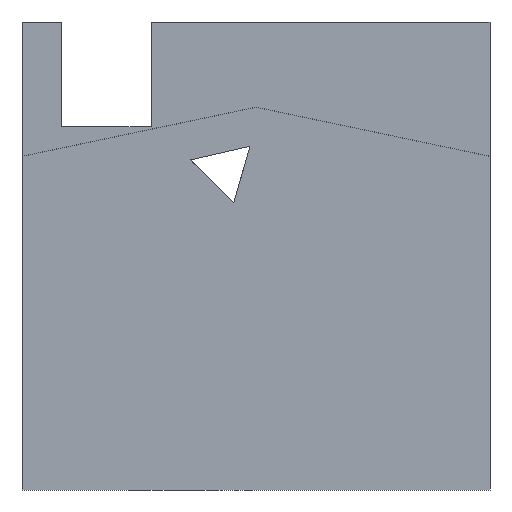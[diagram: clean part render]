
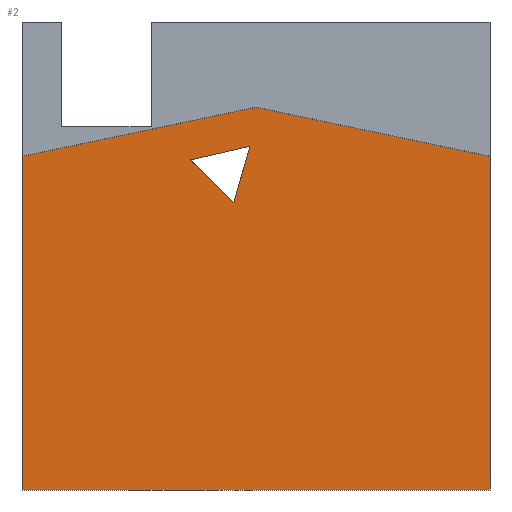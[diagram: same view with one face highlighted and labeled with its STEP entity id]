
A CAD part, front view. The second image highlights one B-rep face of the part: STEP entity #2.
In plain terms, the highlighted planar face has unit normal (0, -1, 0).
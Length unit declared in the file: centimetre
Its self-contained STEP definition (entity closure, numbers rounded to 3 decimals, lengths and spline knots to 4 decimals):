
#2 = ADVANCED_FACE ( 'NONE', ( #2408, #248 ), #633, .F. ) ;
#17 = ORIENTED_EDGE ( 'NONE', *, *, #1701, .T. ) ;
#35 = DIRECTION ( 'NONE',  ( 0.979, 0., 0.206 ) ) ;
#48 = ORIENTED_EDGE ( 'NONE', *, *, #1962, .F. ) ;
#62 = CARTESIAN_POINT ( 'NONE',  ( 487.1751, 0., 734.3258 ) ) ;
#66 = VERTEX_POINT ( 'NONE', #227 ) ;
#82 = VERTEX_POINT ( 'NONE', #2011 ) ;
#166 = VERTEX_POINT ( 'NONE', #2057 ) ;
#169 = EDGE_CURVE ( 'NONE', #2384, #66, #1072, .T. ) ;
#198 = CARTESIAN_POINT ( 'NONE',  ( 452.4896, 0., 613.6342 ) ) ;
#227 = CARTESIAN_POINT ( 'NONE',  ( 1000., 0., 712.9335 ) ) ;
#248 = FACE_OUTER_BOUND ( 'NONE', #1063, .T. ) ;
#266 = EDGE_CURVE ( 'NONE', #2045, #82, #322, .T. ) ;
#271 = ORIENTED_EDGE ( 'NONE', *, *, #169, .F. ) ;
#276 = VECTOR ( 'NONE', #1757, 100. ) ;
#322 = LINE ( 'NONE', #696, #457 ) ;
#360 = DIRECTION ( 'NONE',  ( 1., 0., 0. ) ) ;
#395 = DIRECTION ( 'NONE',  ( 0., 0., -1. ) ) ;
#430 = DIRECTION ( 'NONE',  ( 0.979, 0., -0.206 ) ) ;
#437 = CARTESIAN_POINT ( 'NONE',  ( 0., 0., 1000. ) ) ;
#457 = VECTOR ( 'NONE', #360, 100. ) ;
#474 = CARTESIAN_POINT ( 'NONE',  ( 1000., 0., 712.9335 ) ) ;
#510 = ORIENTED_EDGE ( 'NONE', *, *, #2488, .T. ) ;
#595 = CARTESIAN_POINT ( 'NONE',  ( 500., 0., 817.9415 ) ) ;
#633 = PLANE ( 'NONE',  #1164 ) ;
#696 = CARTESIAN_POINT ( 'NONE',  ( 0., 0., 0. ) ) ;
#768 = CARTESIAN_POINT ( 'NONE',  ( 0., 0., 0. ) ) ;
#774 = ORIENTED_EDGE ( 'NONE', *, *, #266, .T. ) ;
#803 = VECTOR ( 'NONE', #35, 100. ) ;
#829 = LINE ( 'NONE', #2208, #2562 ) ;
#843 = DIRECTION ( 'NONE',  ( 0.974, 0., 0.225 ) ) ;
#951 = DIRECTION ( 'NONE',  ( 0., 0., 1. ) ) ;
#1015 = CARTESIAN_POINT ( 'NONE',  ( 500., 0., 817.9415 ) ) ;
#1063 = EDGE_LOOP ( 'NONE', ( #1848, #271, #48, #1801, #774 ) ) ;
#1072 = LINE ( 'NONE', #474, #1696 ) ;
#1073 = VERTEX_POINT ( 'NONE', #2345 ) ;
#1098 = VERTEX_POINT ( 'NONE', #1457 ) ;
#1164 = AXIS2_PLACEMENT_3D ( 'NONE', #437, #1917, #951 ) ;
#1254 = EDGE_CURVE ( 'NONE', #1073, #2279, #1440, .T. ) ;
#1369 = LINE ( 'NONE', #595, #803 ) ;
#1440 = LINE ( 'NONE', #1877, #1722 ) ;
#1456 = EDGE_LOOP ( 'NONE', ( #510, #2190, #17 ) ) ;
#1457 = CARTESIAN_POINT ( 'NONE',  ( 0., 0., 712.9335 ) ) ;
#1480 = VECTOR ( 'NONE', #395, 100. ) ;
#1583 = DIRECTION ( 'NONE',  ( 0., 0., -1. ) ) ;
#1597 = LINE ( 'NONE', #2156, #276 ) ;
#1686 = DIRECTION ( 'NONE',  ( -0.276, 0., -0.961 ) ) ;
#1696 = VECTOR ( 'NONE', #430, 100. ) ;
#1701 = EDGE_CURVE ( 'NONE', #2279, #166, #1597, .T. ) ;
#1722 = VECTOR ( 'NONE', #1686, 100. ) ;
#1757 = DIRECTION ( 'NONE',  ( -0.707, 0., 0.707 ) ) ;
#1801 = ORIENTED_EDGE ( 'NONE', *, *, #2371, .T. ) ;
#1818 = LINE ( 'NONE', #62, #2003 ) ;
#1848 = ORIENTED_EDGE ( 'NONE', *, *, #2329, .F. ) ;
#1877 = CARTESIAN_POINT ( 'NONE',  ( 452.4896, 0., 613.6342 ) ) ;
#1917 = DIRECTION ( 'NONE',  ( 0., 1., 0. ) ) ;
#1962 = EDGE_CURVE ( 'NONE', #1098, #2384, #1369, .T. ) ;
#2003 = VECTOR ( 'NONE', #843, 100. ) ;
#2011 = CARTESIAN_POINT ( 'NONE',  ( 1000., 0., 0. ) ) ;
#2045 = VERTEX_POINT ( 'NONE', #768 ) ;
#2057 = CARTESIAN_POINT ( 'NONE',  ( 360.9321, 0., 705.1917 ) ) ;
#2156 = CARTESIAN_POINT ( 'NONE',  ( 360.9321, 0., 705.1917 ) ) ;
#2170 = CARTESIAN_POINT ( 'NONE',  ( 0., 0., 1000. ) ) ;
#2190 = ORIENTED_EDGE ( 'NONE', *, *, #1254, .T. ) ;
#2197 = LINE ( 'NONE', #2170, #1480 ) ;
#2208 = CARTESIAN_POINT ( 'NONE',  ( 1000., 0., 1000. ) ) ;
#2279 = VERTEX_POINT ( 'NONE', #198 ) ;
#2329 = EDGE_CURVE ( 'NONE', #66, #82, #829, .T. ) ;
#2345 = CARTESIAN_POINT ( 'NONE',  ( 487.1751, 0., 734.3258 ) ) ;
#2371 = EDGE_CURVE ( 'NONE', #1098, #2045, #2197, .T. ) ;
#2384 = VERTEX_POINT ( 'NONE', #1015 ) ;
#2408 = FACE_BOUND ( 'NONE', #1456, .T. ) ;
#2488 = EDGE_CURVE ( 'NONE', #166, #1073, #1818, .T. ) ;
#2562 = VECTOR ( 'NONE', #1583, 100. ) ;
